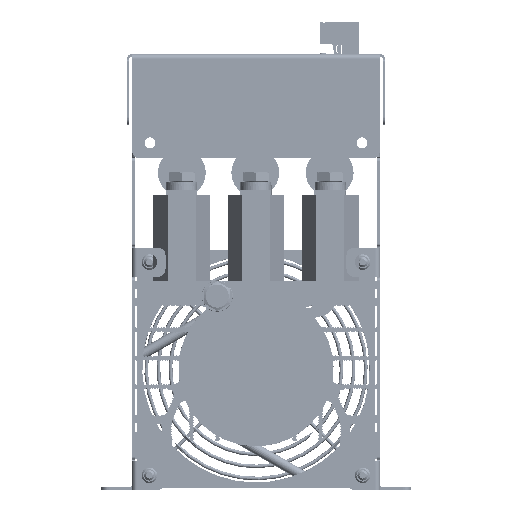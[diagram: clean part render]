
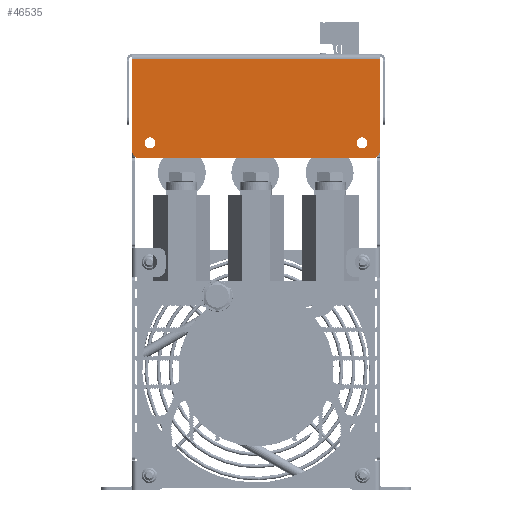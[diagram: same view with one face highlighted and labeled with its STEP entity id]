
A CAD part, front view. The second image highlights one B-rep face of the part: STEP entity #46535.
In plain terms, the highlighted planar face has unit normal (0, -1, 0).
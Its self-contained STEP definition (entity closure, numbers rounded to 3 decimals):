
#46535=ADVANCED_FACE('',(#102483,#102485,#102487),#102489,.F.);
#102483=FACE_BOUND('',#102484,.T.);
#102484=EDGE_LOOP('',(#149485,#149486,#149487,#149488,#149489,#149490));
#102485=FACE_BOUND('',#102486,.T.);
#102486=EDGE_LOOP('',(#149491));
#102487=FACE_BOUND('',#102488,.T.);
#102488=EDGE_LOOP('',(#149492));
#102489=PLANE('',#102490);
#102490=AXIS2_PLACEMENT_3D('',#102491,#102492,#102493);
#102491=CARTESIAN_POINT('',(0.,-97.,217.299));
#102492=DIRECTION('',(0.,1.,0.));
#102493=DIRECTION('',(1.,0.,0.));
#149485=ORIENTED_EDGE('',*,*,#173089,.F.);
#149486=ORIENTED_EDGE('',*,*,#173096,.F.);
#149487=ORIENTED_EDGE('',*,*,#173094,.F.);
#149488=ORIENTED_EDGE('',*,*,#173093,.F.);
#149489=ORIENTED_EDGE('',*,*,#172214,.T.);
#149490=ORIENTED_EDGE('',*,*,#173091,.F.);
#149491=ORIENTED_EDGE('',*,*,#173097,.T.);
#149492=ORIENTED_EDGE('',*,*,#173098,.T.);
#172214=EDGE_CURVE('',#207237,#207233,#207315,.T.);
#173089=EDGE_CURVE('',#208625,#208627,#208628,.F.);
#173091=EDGE_CURVE('',#208627,#207233,#208630,.T.);
#173093=EDGE_CURVE('',#207237,#208631,#208633,.T.);
#173094=EDGE_CURVE('',#208631,#208634,#208635,.F.);
#173096=EDGE_CURVE('',#208634,#208625,#208637,.T.);
#173097=EDGE_CURVE('',#208638,#208638,#208639,.F.);
#173098=EDGE_CURVE('',#208640,#208640,#208641,.F.);
#207233=VERTEX_POINT('',#298454);
#207237=VERTEX_POINT('',#298465);
#207315=LINE('',#298674,#298675);
#208625=VERTEX_POINT('',#302081);
#208627=VERTEX_POINT('',#302085);
#208628=CIRCLE('',#302086,3.);
#208630=LINE('',#302093,#302094);
#208631=VERTEX_POINT('',#302096);
#208633=LINE('',#302100,#302101);
#208634=VERTEX_POINT('',#302103);
#208635=CIRCLE('',#302104,3.);
#208637=LINE('',#302111,#302112);
#208638=VERTEX_POINT('',#302114);
#208639=CIRCLE('',#302115,2.1);
#208640=VERTEX_POINT('',#302119);
#208641=CIRCLE('',#302120,2.1);
#298454=CARTESIAN_POINT('',(-48.,-97.,120.1));
#298465=CARTESIAN_POINT('',(48.,-97.,120.1));
#298674=CARTESIAN_POINT('',(48.,-97.,120.1));
#298675=VECTOR('',#298676,1.);
#298676=DIRECTION('',(-1.,0.,0.));
#302081=CARTESIAN_POINT('',(-45.,-97.,81.8));
#302085=CARTESIAN_POINT('',(-48.,-97.,84.8));
#302086=AXIS2_PLACEMENT_3D('',#302087,#302088,#302089);
#302087=CARTESIAN_POINT('',(-45.,-97.,84.8));
#302088=DIRECTION('',(0.,-1.,0.));
#302089=DIRECTION('',(-1.,0.,0.));
#302093=CARTESIAN_POINT('',(-48.,-97.,84.8));
#302094=VECTOR('',#302095,1.);
#302095=DIRECTION('',(0.,0.,1.));
#302096=CARTESIAN_POINT('',(48.,-97.,84.8));
#302100=CARTESIAN_POINT('',(48.,-97.,120.1));
#302101=VECTOR('',#302102,1.);
#302102=DIRECTION('',(0.,0.,-1.));
#302103=CARTESIAN_POINT('',(45.,-97.,81.8));
#302104=AXIS2_PLACEMENT_3D('',#302105,#302106,#302107);
#302105=CARTESIAN_POINT('',(45.,-97.,84.8));
#302106=DIRECTION('',(0.,-1.,0.));
#302107=DIRECTION('',(0.,0.,-1.));
#302111=CARTESIAN_POINT('',(45.,-97.,81.8));
#302112=VECTOR('',#302113,1.);
#302113=DIRECTION('',(-1.,0.,0.));
#302114=CARTESIAN_POINT('',(-38.9,-97.,87.8));
#302115=AXIS2_PLACEMENT_3D('',#302116,#302117,#302118);
#302116=CARTESIAN_POINT('',(-41.,-97.,87.8));
#302117=DIRECTION('',(0.,-1.,0.));
#302118=DIRECTION('',(1.,0.,0.));
#302119=CARTESIAN_POINT('',(43.1,-97.,87.8));
#302120=AXIS2_PLACEMENT_3D('',#302121,#302122,#302123);
#302121=CARTESIAN_POINT('',(41.,-97.,87.8));
#302122=DIRECTION('',(0.,-1.,0.));
#302123=DIRECTION('',(1.,0.,0.));
